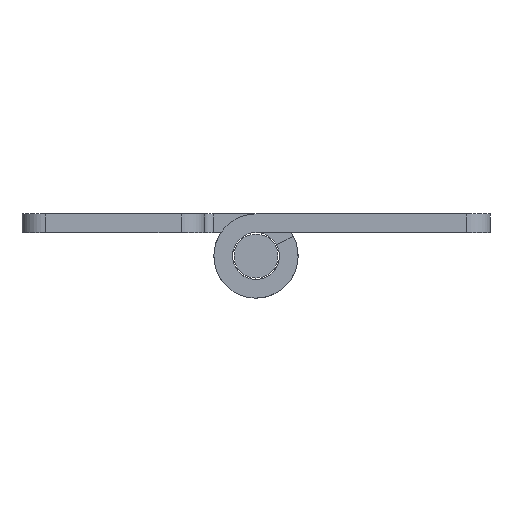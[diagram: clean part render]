
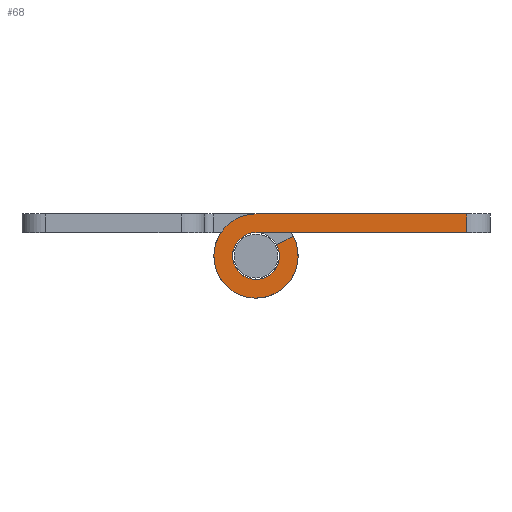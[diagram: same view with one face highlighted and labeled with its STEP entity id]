
A CAD part, front view. The second image highlights one B-rep face of the part: STEP entity #68.
In plain terms, the highlighted planar face has unit normal (0, -1, 0).
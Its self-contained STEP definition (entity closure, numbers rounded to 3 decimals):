
#68=ADVANCED_FACE('',(#142),#1353,.T.);
#142=FACE_OUTER_BOUND('',#228,.T.);
#228=EDGE_LOOP('',(#520,#521,#522,#523,#524,#525));
#520=ORIENTED_EDGE('',*,*,#766,.F.);
#521=ORIENTED_EDGE('',*,*,#762,.F.);
#522=ORIENTED_EDGE('',*,*,#778,.F.);
#523=ORIENTED_EDGE('',*,*,#775,.F.);
#524=ORIENTED_EDGE('',*,*,#772,.F.);
#525=ORIENTED_EDGE('',*,*,#852,.F.);
#762=EDGE_CURVE('',#1216,#1217,#934,.T.);
#766=EDGE_CURVE('',#1217,#1264,#1096,.T.);
#772=EDGE_CURVE('',#1270,#1220,#1102,.T.);
#775=EDGE_CURVE('',#1220,#1222,#936,.T.);
#778=EDGE_CURVE('',#1222,#1216,#1105,.T.);
#852=EDGE_CURVE('',#1264,#1270,#1150,.T.);
#934=TRIMMED_CURVE($,#1010,(#2219),(#2220),.T.,.CARTESIAN.);
#936=TRIMMED_CURVE($,#1012,(#2247),(#2248),.T.,.CARTESIAN.);
#1010=CIRCLE('',#1542,4.5);
#1012=CIRCLE('',#1544,2.5);
#1096=B_SPLINE_CURVE_WITH_KNOTS('',1,(#2228,#2229),.UNSPECIFIED.,.F.,.F.,
(2,2),(27.,49.5),.UNSPECIFIED.);
#1102=B_SPLINE_CURVE_WITH_KNOTS('',1,(#2240,#2241),.UNSPECIFIED.,.F.,.F.,
(2,2),(56.5,79.),.UNSPECIFIED.);
#1105=B_SPLINE_CURVE_WITH_KNOTS('',1,(#2254,#2255),.UNSPECIFIED.,.F.,.F.,
(2,2),(92.003,94.003),.UNSPECIFIED.);
#1150=B_SPLINE_CURVE_WITH_KNOTS('',1,(#2422,#2423),.UNSPECIFIED.,.F.,.F.,
(2,2),(0.,2.),.UNSPECIFIED.);
#1216=VERTEX_POINT('',#2146);
#1217=VERTEX_POINT('',#2147);
#1220=VERTEX_POINT('',#2150);
#1222=VERTEX_POINT('',#2152);
#1264=VERTEX_POINT('',#2194);
#1270=VERTEX_POINT('',#2200);
#1353=PLANE('',#1540);
#1540=AXIS2_PLACEMENT_3D('',#2144,#1720,$);
#1542=AXIS2_PLACEMENT_3D($,#2218,#1722,#1723);
#1544=AXIS2_PLACEMENT_3D($,#2246,#1726,#1727);
#1720=DIRECTION('',(0.,-1.,0.));
#1722=DIRECTION('',(0.,1.,0.));
#1723=DIRECTION('',(0.883,0.,0.47));
#1726=DIRECTION('',(0.,-1.,0.));
#1727=DIRECTION('',(0.,0.,1.));
#2144=CARTESIAN_POINT('',(-2.784,0.,10.078));
#2146=CARTESIAN_POINT('',(9.377,0.,6.566));
#2147=CARTESIAN_POINT('',(5.404,0.,8.953));
#2150=CARTESIAN_POINT('',(5.404,0.,6.953));
#2152=CARTESIAN_POINT('',(7.611,0.,5.628));
#2194=CARTESIAN_POINT('',(27.904,0.,8.953));
#2200=CARTESIAN_POINT('',(27.904,0.,6.953));
#2218=CARTESIAN_POINT('',(5.404,0.,4.453));
#2219=CARTESIAN_POINT('',(9.377,0.,6.566));
#2220=CARTESIAN_POINT('',(5.404,0.,8.953));
#2228=CARTESIAN_POINT('',(5.404,0.,8.953));
#2229=CARTESIAN_POINT('',(27.904,0.,8.953));
#2240=CARTESIAN_POINT('',(27.904,0.,6.953));
#2241=CARTESIAN_POINT('',(5.404,0.,6.953));
#2246=CARTESIAN_POINT('',(5.404,0.,4.453));
#2247=CARTESIAN_POINT('',(5.404,0.,6.953));
#2248=CARTESIAN_POINT('',(7.611,0.,5.628));
#2254=CARTESIAN_POINT('',(7.611,0.,5.628));
#2255=CARTESIAN_POINT('',(9.377,0.,6.566));
#2422=CARTESIAN_POINT('',(27.904,0.,8.953));
#2423=CARTESIAN_POINT('',(27.904,0.,6.953));
